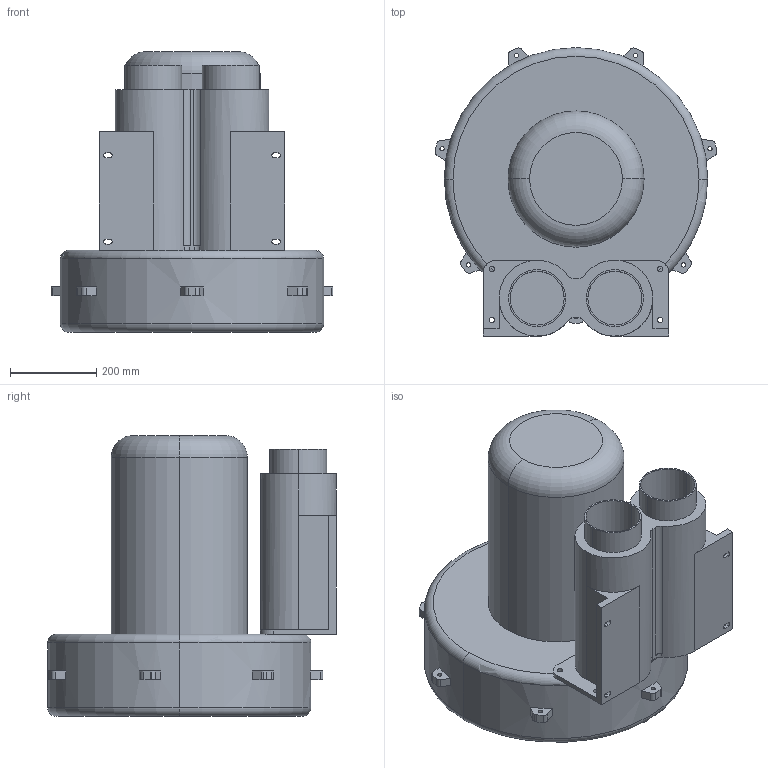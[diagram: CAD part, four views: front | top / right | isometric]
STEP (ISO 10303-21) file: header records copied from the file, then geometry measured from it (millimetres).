
FILE_DESCRIPTION (( 'STEP AP203' ), '1' );
FILE_NAME ('19000.STEP', '2019-05-09T03:43:09', ( 'User' ), ( 'www.dadighost.com' ), 'SwSTEP 2.0', 'SolidWorks 2014', '' );
FILE_SCHEMA (( 'CONFIG_CONTROL_DESIGN' ));
Length unit declared in the file: millimetre
Products named in the file (1): 19000
Bounding box: 652.98 x 669 x 650 mm (x, y, z)
Volume: 103580033.2 mm3; surface area: 2205830.1 mm2
Topology: 1 solids, 1 shells, 152 faces, 407 edges, 267 vertices
Faces by surface type: plane 74, cylinder 72, torus 6
Entity records: 4955 total; most frequent: DIRECTION 904, CARTESIAN_POINT 827, ORIENTED_EDGE 814, EDGE_CURVE 407, AXIS2_PLACEMENT_3D 344, VERTEX_POINT 267, VECTOR 216, LINE 216
